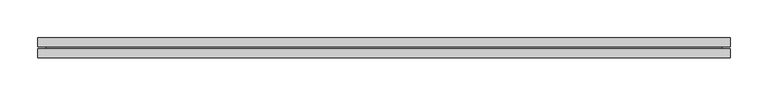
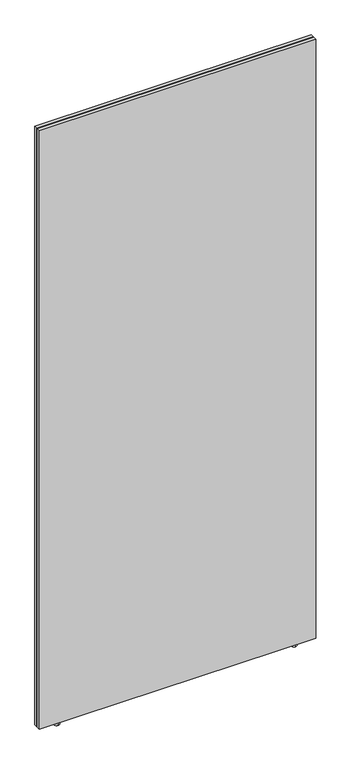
"""IFC4 building model written with IfcOpenShell, lengths in millimetres: furniture geometry, Geiger_GeigerOneCasegoods_WallFrameStandardApplication : 36Wx1Dx82.5H."""

from ifc_helpers import new_model, si_unit, point, frame, origin, place, context, project, spatial, circle_curve, ellipse_curve, trimmed, faceted_brep, source, transform, mapped, element, save
from ifc_brep_helpers import plane_surface, cylinder_surface, revolved_surface, advanced_brep


def furniture_62f48795(model_context):
    return source(origin(), model_context, "Body", "SolidModel", [
        faceted_brep([(914.4, -26.0, 12.7), (914.4, -26.0, 2108.2), (0.0, -26.0, 2108.2), (0.0, -26.0, 12.7), (914.4, 0.0, 2108.2), (914.4, 0.0, 12.7), (0.0, 0.0, 12.7), (0.0, 0.0, 2108.2), (914.4, -14.5, 2108.2), (914.4, -14.5, 12.7), (903.4, -11.5, 2097.2), (903.4, -14.5, 2097.2), (903.4, -14.5, 23.7), (903.4, -11.5, 23.7), (914.4, -11.5, 2108.2), (914.4, -11.5, 12.7), (0.0, -14.5, 12.7), (11.0, -14.5, 23.7), (11.0, -11.5, 23.7), (0.0, -11.5, 12.7), (0.0, -14.5, 2108.2), (11.0, -14.5, 2097.2), (11.0, -11.5, 2097.2), (0.0, -11.5, 2108.2)], [[[0, 1, 2, 3]], [[4, 5, 6, 7]], [[8, 1, 0, 9]], [[10, 11, 12, 13]], [[4, 14, 15, 5]], [[9, 0, 3, 16]], [[13, 12, 17, 18]], [[5, 15, 19, 6]], [[16, 3, 2, 20]], [[18, 17, 21, 22]], [[6, 19, 23, 7]], [[1, 8, 20, 2]], [[8, 9, 16, 20], [12, 11, 21, 17]], [[11, 10, 22, 21]], [[15, 14, 23, 19], [10, 13, 18, 22]], [[14, 4, 7, 23]]]),
        advanced_brep(
        [(850.4, -13.0, 0.0), (850.4, -8.2612423, 0.0), (850.4, -17.7387577, 0.0), (850.4, -7.1362597, 9.4), (850.4, -18.8637403, 9.4), (850.4, -5.75, 9.4), (850.4, -20.25, 9.4), (850.4, -5.75, 12.7), (850.4, -20.25, 12.7), (850.4, -13.0, 12.7)],
        [
            (0, 1),
            (1, 2, circle_curve(frame((850.4, -13.0, 0.0), z_axis=(0.0, 0.0, -1.0), x_axis=(0.0, 1.0, 0.0)), 4.7387577)),
            (2, 0),
            (2, 1, circle_curve(frame((850.4, -13.0, 0.0), z_axis=(0.0, 0.0, -1.0), x_axis=(0.0, 1.0, 0.0)), 4.7387577)),
            (1, 3, circle_curve(frame((850.4, -8.2612423, 4.7673184), z_axis=(1.0, 0.0, 0.0), x_axis=(0.0, 1.0, 0.0)), 4.7673184)),
            (3, 4, circle_curve(frame((850.4, -13.0, 9.4), z_axis=(0.0, 0.0, -1.0), x_axis=(0.0, 1.0, 0.0)), 5.8637403)),
            (4, 2, circle_curve(frame((850.4, -17.7387577, 4.7673184), z_axis=(1.0, 0.0, 0.0), x_axis=(0.0, -1.0, 0.0)), 4.7673184)),
            (4, 3, circle_curve(frame((850.4, -13.0, 9.4), z_axis=(0.0, 0.0, -1.0), x_axis=(0.0, 1.0, 0.0)), 5.8637403)),
            (3, 5),
            (5, 6, circle_curve(frame((850.4, -13.0, 9.4), z_axis=(0.0, 0.0, -1.0), x_axis=(0.0, 1.0, 0.0)), 7.25)),
            (6, 4),
            (6, 5, circle_curve(frame((850.4, -13.0, 9.4), z_axis=(0.0, 0.0, -1.0), x_axis=(0.0, 1.0, 0.0)), 7.25)),
            (5, 7),
            (7, 8, circle_curve(frame((850.4, -13.0, 12.7), z_axis=(0.0, 0.0, -1.0), x_axis=(0.0, 1.0, 0.0)), 7.25)),
            (8, 6),
            (8, 7, circle_curve(frame((850.4, -13.0, 12.7), z_axis=(0.0, 0.0, -1.0), x_axis=(0.0, 1.0, 0.0)), 7.25)),
            (7, 9),
            (9, 8),
        ],
        [
            plane_surface(frame((850.4, -13.0, 0.0), z_axis=(0.0, 0.0, -1.0), x_axis=(0.0, 1.0, 0.0))),
            revolved_surface(trimmed(ellipse_curve(frame((850.4, -8.2612423, 4.7673184), z_axis=(-1.0, 0.0, 0.0), x_axis=(0.0, 1.0, 0.0)), 4.7673184, 4.7673184), [point((850.4, -7.1362597, 9.4))], [point((850.4, -8.2612423, 0.0))], True, "CARTESIAN"), (850.4, -13.0, 0.0), (0.0, 0.0, -1.0)),
            plane_surface(frame((850.4, -13.0, 9.4), z_axis=(0.0, 0.0, -1.0), x_axis=(0.0, 1.0, 0.0))),
            cylinder_surface(frame((850.4, -13.0, 0.0), z_axis=(0.0, 0.0, -1.0), x_axis=(0.0, 1.0, 0.0)), 7.25),
            plane_surface(frame((850.4, -13.0, 12.7), z_axis=(0.0, 0.0, 1.0), x_axis=(0.0, 1.0, 0.0))),
        ],
        [
            (0, [[1, 2, 3]]),
            (0, [[-3, 4, -1]]),
            (1, [[-2, 5, 6, 7]]),
            (1, [[-4, -7, 8, -5]]),
            (2, [[-6, 9, 10, 11]]),
            (2, [[-8, -11, 12, -9]]),
            (3, [[-10, 13, 14, 15]]),
            (3, [[-12, -15, 16, -13]]),
            (4, [[-14, 17, 18]]),
            (4, [[-16, -18, -17]]),
        ],
    ),
        advanced_brep(
        [(64.0, -17.7387577, 0.0), (64.0, -8.2612423, 0.0), (64.0, -13.0, 0.0), (64.0, -18.8637403, 9.4), (64.0, -7.1362597, 9.4), (64.0, -20.25, 9.4), (64.0, -5.75, 9.4), (64.0, -20.25, 12.7), (64.0, -5.75, 12.7), (64.0, -13.0, 12.7)],
        [
            (0, 1, circle_curve(frame((64.0, -13.0, 0.0), z_axis=(0.0, 0.0, -1.0), x_axis=(0.0, 1.0, 0.0)), 4.7387577)),
            (1, 2),
            (2, 0),
            (1, 0, circle_curve(frame((64.0, -13.0, 0.0), z_axis=(0.0, 0.0, -1.0), x_axis=(0.0, 1.0, 0.0)), 4.7387577)),
            (3, 4, circle_curve(frame((64.0, -13.0, 9.4), z_axis=(0.0, 0.0, -1.0), x_axis=(0.0, 1.0, 0.0)), 5.8637403)),
            (4, 1, circle_curve(frame((64.0, -8.2612423, 4.7673184), z_axis=(-1.0, 0.0, 0.0), x_axis=(0.0, 1.0, 0.0)), 4.7673184)),
            (0, 3, circle_curve(frame((64.0, -17.7387577, 4.7673184), z_axis=(-1.0, 0.0, 0.0), x_axis=(0.0, -1.0, 0.0)), 4.7673184)),
            (4, 3, circle_curve(frame((64.0, -13.0, 9.4), z_axis=(0.0, 0.0, -1.0), x_axis=(0.0, 1.0, 0.0)), 5.8637403)),
            (5, 6, circle_curve(frame((64.0, -13.0, 9.4), z_axis=(0.0, 0.0, -1.0), x_axis=(0.0, 1.0, 0.0)), 7.25)),
            (6, 4),
            (3, 5),
            (6, 5, circle_curve(frame((64.0, -13.0, 9.4), z_axis=(0.0, 0.0, -1.0), x_axis=(0.0, 1.0, 0.0)), 7.25)),
            (7, 8, circle_curve(frame((64.0, -13.0, 12.7), z_axis=(0.0, 0.0, -1.0), x_axis=(0.0, 1.0, 0.0)), 7.25)),
            (8, 6),
            (5, 7),
            (8, 7, circle_curve(frame((64.0, -13.0, 12.7), z_axis=(0.0, 0.0, -1.0), x_axis=(0.0, 1.0, 0.0)), 7.25)),
            (9, 8),
            (7, 9),
        ],
        [
            plane_surface(frame((64.0, -13.0, 0.0), z_axis=(0.0, 0.0, -1.0), x_axis=(0.0, 1.0, 0.0))),
            revolved_surface(trimmed(ellipse_curve(frame((64.0, -8.2612423, 4.7673184), z_axis=(1.0, 0.0, 0.0), x_axis=(0.0, 1.0, 0.0)), 4.7673184, 4.7673184), [point((64.0, -8.2612423, 0.0))], [point((64.0, -7.1362597, 9.4))], True, "CARTESIAN"), (64.0, -13.0, 0.0), (0.0, 0.0, 1.0)),
            plane_surface(frame((64.0, -13.0, 9.4), z_axis=(0.0, 0.0, -1.0), x_axis=(0.0, 1.0, 0.0))),
            cylinder_surface(frame((64.0, -13.0, 0.0), z_axis=(0.0, 0.0, 1.0), x_axis=(0.0, 1.0, 0.0)), 7.25),
            plane_surface(frame((64.0, -13.0, 12.7), z_axis=(0.0, 0.0, 1.0), x_axis=(0.0, 1.0, 0.0))),
        ],
        [
            (0, [[1, 2, 3]]),
            (0, [[4, -3, -2]]),
            (1, [[5, 6, -1, 7]]),
            (1, [[8, -7, -4, -6]]),
            (2, [[9, 10, -5, 11]]),
            (2, [[12, -11, -8, -10]]),
            (3, [[13, 14, -9, 15]]),
            (3, [[16, -15, -12, -14]]),
            (4, [[17, -13, 18]]),
            (4, [[-18, -16, -17]]),
        ],
    ),
    ])


if __name__ == "__main__":
    model = new_model("IFC4")
    model_context = context("Model", 3, world=origin())
    ifc_project = project(units=[si_unit("LENGTHUNIT", "METRE", prefix="MILLI")], contexts=[model_context])
    site = spatial("IfcSite", under=ifc_project)
    building = spatial("IfcBuilding", under=site)
    placement = place(None, origin())
    furniture_shape = furniture_62f48795(model_context)
    element("IfcFurniture", 1, ObjectType="Geiger_GeigerOneCasegoods_WallFrameStandardApplication : 36Wx1Dx82.5H", at=placement, inside=building, context=model_context, shape_type="MappedRepresentation", body=[
        mapped(furniture_shape, transform((0.0, 0.0, 0.0), x_axis=(1.0, 0.0, 0.0), y_axis=(0.0, 1.0, 0.0), z_axis=(0.0, 0.0, 1.0))),
    ])
    save(model, "model.ifc")
